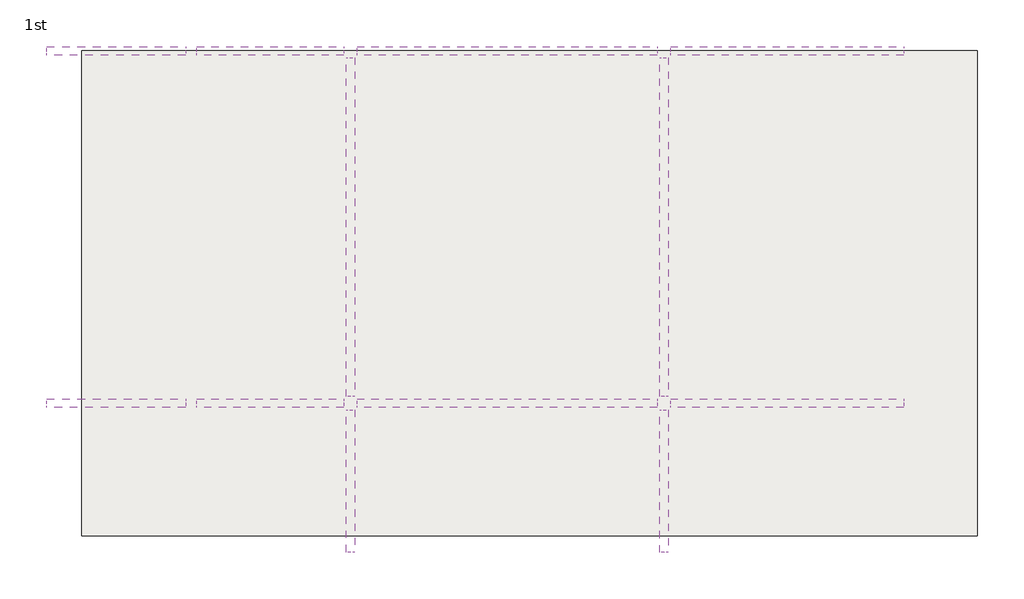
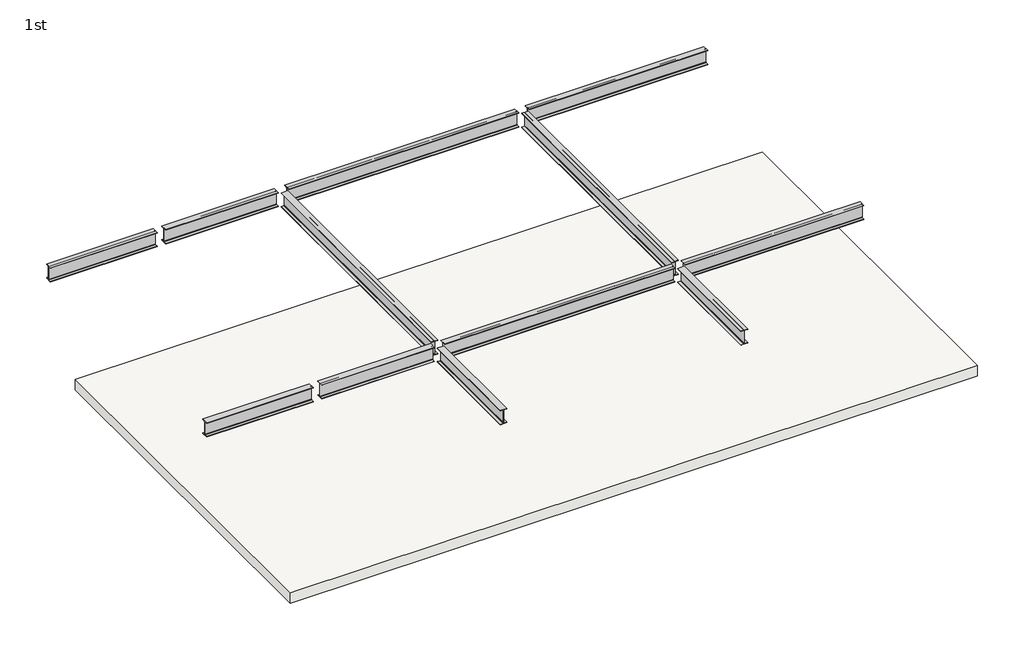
# One storey: 12 beams, 1 slab.
"""IFC4 building model written with IfcOpenShell, lengths in millimetres."""

import ifcopenshell
import ifcopenshell.guid

model = None  # the IFC model being written
_history = None  # IfcOwnerHistory: only IFC2X3 demands one
_inside = {}  # id of a spatial element -> (the spatial element, [elements in it])
_under = {}  # id of a project, library or spatial element -> (it, [spatial elements below it])
_declared = {}  # id of a project -> (the project, [libraries it declares])
_typed = {}  # id of a type object -> (the type object, [elements of that type])
_made_of = {}  # id of a material, layer set ... -> (it, [elements and type objects made of it])


def new_model(schema):
    """Start an empty IFC model of exactly this schema.

    Asked for "IFC4X3", IfcOpenShell would pick the latest addendum, in which some entities
    have other attributes; the version numbers below select the first issue.
    IFC2X3 requires an IfcOwnerHistory on every rooted entity: one is made here for all.
    """
    global model, _history
    if schema == "IFC4X3":
        model = ifcopenshell.file(schema_version=(4, 3, 0, 0))
    else:
        model = ifcopenshell.file(schema=schema)
    _inside.clear()
    _under.clear()
    _declared.clear()
    _typed.clear()
    _made_of.clear()
    _history = None
    if model.schema == "IFC2X3":
        org = make("IfcOrganization", Name="unknown")
        user = make(
            "IfcPersonAndOrganization",
            ThePerson=make("IfcPerson", FamilyName="unknown"),
            TheOrganization=org,
        )
        app = make(
            "IfcApplication",
            ApplicationDeveloper=org,
            Version="unknown",
            ApplicationFullName="unknown",
            ApplicationIdentifier="unknown",
        )
        _history = make(
            "IfcOwnerHistory",
            OwningUser=user,
            OwningApplication=app,
            ChangeAction="ADDED",
            CreationDate=0,
        )
    return model


def make(cls, **values):
    """One entity of the class cls with the attributes given. An attribute that is None is left unset."""
    return model.create_entity(
        cls, **{name: value for name, value in values.items() if value is not None}
    )


def rooted(cls, **values):
    """An entity with a GlobalId (a new one), such as an element, a storey or a relation."""
    return make(cls, GlobalId=ifcopenshell.guid.new(), OwnerHistory=_history, **values)


def si_unit(unit_type, name, prefix=None):
    """IfcSIUnit, for example si_unit("LENGTHUNIT", "METRE", prefix="MILLI")."""
    return make("IfcSIUnit", UnitType=unit_type, Prefix=prefix, Name=name)


def assignment(units):
    """IfcUnitAssignment: the units of a project."""
    return None if units is None else make("IfcUnitAssignment", Units=units)


def point(xyz):
    """IfcCartesianPoint."""
    return None if xyz is None else make("IfcCartesianPoint", Coordinates=xyz)


def direction(xyz):
    """IfcDirection."""
    return None if xyz is None else make("IfcDirection", DirectionRatios=xyz)


def frame(location, z_axis=None, x_axis=None):
    """IfcAxis2Placement3D, a coordinate frame: its origin and axes. An axis left out is left unset."""
    return make(
        "IfcAxis2Placement3D",
        Location=point(location),
        Axis=direction(z_axis),
        RefDirection=direction(x_axis),
    )


def frame_2d(location, x_axis=None):
    """IfcAxis2Placement2D, a coordinate frame in the plane: its origin and x axis."""
    return make(
        "IfcAxis2Placement2D", Location=point(location), RefDirection=direction(x_axis)
    )


def origin():
    """The frame at (0, 0, 0) with its axes left unset."""
    return frame((0.0, 0.0, 0.0))


def place(relative_to, where):
    """IfcLocalPlacement: puts the frame where relative to a parent placement (None: the world)."""
    return make(
        "IfcLocalPlacement", PlacementRelTo=relative_to, RelativePlacement=where
    )


def context(
    kind, dimensions, precision=None, world=None, true_north=None, identifier=None
):
    """IfcGeometricRepresentationContext, for example the 3D "Model" context."""
    return make(
        "IfcGeometricRepresentationContext",
        ContextIdentifier=identifier,
        ContextType=kind,
        CoordinateSpaceDimension=dimensions,
        Precision=precision,
        WorldCoordinateSystem=world,
        TrueNorth=true_north,
    )


def project(units=None, contexts=None):
    """IfcProject with its units and contexts."""
    return rooted(
        "IfcProject",
        Name="project",
        RepresentationContexts=contexts,
        UnitsInContext=assignment(units),
    )


def spatial(cls, under=None, at=None, **own):
    """A site, building, storey or space (cls), placed at a placement, below another one or the project."""
    s = rooted(cls, ObjectPlacement=at, **own)
    if under is not None:
        _under.setdefault(under.id(), (under, []))[1].append(s)
    return s


def polyline(points):
    """IfcPolyline through the points."""
    return make("IfcPolyline", Points=[point(p) for p in points])


def circle_curve(where, radius):
    """IfcCircle in the frame where."""
    return make("IfcCircle", Position=where, Radius=radius)


def trimmed(basis, trim1, trim2, sense, master):
    """IfcTrimmedCurve: the piece of a basis curve between two trims."""
    return make(
        "IfcTrimmedCurve",
        BasisCurve=basis,
        Trim1=trim1,
        Trim2=trim2,
        SenseAgreement=sense,
        MasterRepresentation=master,
    )


def segment(curve, same_sense, transition):
    """IfcCompositeCurveSegment."""
    return make(
        "IfcCompositeCurveSegment",
        Transition=transition,
        SameSense=same_sense,
        ParentCurve=curve,
    )


def composite_curve(segments, self_intersect=None):
    """IfcCompositeCurve: segments joined end to end."""
    return make("IfcCompositeCurve", Segments=segments, SelfIntersect=self_intersect)


def outline(outer, holes=None, kind="AREA"):
    """IfcArbitraryClosedProfileDef: a profile drawn as a closed curve; with holes, ...WithVoids."""
    if holes is None:
        return make("IfcArbitraryClosedProfileDef", ProfileType=kind, OuterCurve=outer)
    return make(
        "IfcArbitraryProfileDefWithVoids",
        ProfileType=kind,
        OuterCurve=outer,
        InnerCurves=holes,
    )


def extrude(swept, where, along, depth):
    """IfcExtrudedAreaSolid: the profile swept, set in the frame where, extruded along a direction by depth."""
    return make(
        "IfcExtrudedAreaSolid",
        SweptArea=swept,
        Position=where,
        ExtrudedDirection=direction(along),
        Depth=depth,
    )


def shape(context_of_items, identifier, shape_type, items):
    """IfcShapeRepresentation: the items that make up one representation, for example the "Body"."""
    return make(
        "IfcShapeRepresentation",
        ContextOfItems=context_of_items,
        RepresentationIdentifier=identifier,
        RepresentationType=shape_type,
        Items=items,
    )


def source(mapping_origin, context_of_items, identifier, shape_type, items):
    """IfcRepresentationMap: a shape defined once, which mapped items show again and again."""
    return make(
        "IfcRepresentationMap",
        MappingOrigin=mapping_origin,
        MappedRepresentation=shape(context_of_items, identifier, shape_type, items),
    )


def transform(
    local_origin,
    x_axis=None,
    y_axis=None,
    z_axis=None,
    scale=None,
    scale2=None,
    scale3=None,
    uniform=True,
):
    """IfcCartesianTransformationOperator3D, or its non-uniform kind. x_axis, y_axis, z_axis: its Axis1, 2, 3."""
    if uniform:
        return make(
            "IfcCartesianTransformationOperator3D",
            Axis1=direction(x_axis),
            Axis2=direction(y_axis),
            LocalOrigin=point(local_origin),
            Scale=scale,
            Axis3=direction(z_axis),
        )
    return make(
        "IfcCartesianTransformationOperator3DnonUniform",
        Axis1=direction(x_axis),
        Axis2=direction(y_axis),
        LocalOrigin=point(local_origin),
        Scale=scale,
        Axis3=direction(z_axis),
        Scale2=scale2,
        Scale3=scale3,
    )


def mapped(mapping_source, mapping_target):
    """IfcMappedItem: shows the shape of a source again, moved by a transform."""
    return make(
        "IfcMappedItem", MappingSource=mapping_source, MappingTarget=mapping_target
    )


def made_of(thing, what):
    """Note that an element or type object is made of a material, layer set ...; save() writes the relation."""
    if what is not None:
        _made_of.setdefault(what.id(), (what, []))[1].append(thing)
    return thing


def element(
    cls,
    number,
    at=None,
    inside=None,
    cuts=None,
    type_object=None,
    material=None,
    context=None,
    identifier="Body",
    shape_type=None,
    held_by="IfcProductDefinitionShape",
    body=None,
    shapes=None,
    **own,
):
    """One element of the class cls, such as IfcWall. Its Tag is "e" and its number.

    at: its placement. inside: the storey or other place that contains it. cuts: it is an
    opening in that element (IfcRelVoidsElement). A single representation is given by context,
    identifier, shape_type and body (its items); several are given by shapes. held_by: the class
    of the entity that holds the representations. save() writes the other relations.
    """
    e = rooted(cls, Tag="e%d" % number, ObjectPlacement=at, **own)
    if body is not None:
        shapes = [shape(context, identifier, shape_type, body)]
    if shapes is not None:
        e.Representation = make(held_by, Representations=shapes)
    if inside is not None:
        _inside.setdefault(inside.id(), (inside, []))[1].append(e)
    if cuts is not None:
        rooted(
            "IfcRelVoidsElement", RelatingBuildingElement=cuts, RelatedOpeningElement=e
        )
    if type_object is not None:
        _typed.setdefault(type_object.id(), (type_object, []))[1].append(e)
    return made_of(e, material)


def aggregate(whole, parts):
    """IfcRelAggregates: a whole, such as a stair, and the parts it consists of."""
    return rooted("IfcRelAggregates", RelatingObject=whole, RelatedObjects=parts)


def save(model, path):
    """Write the relations noted so far, then the file.

    IfcRelAggregates (storeys below a building ...), IfcRelContainedInSpatialStructure (elements
    in a storey), IfcRelDefinesByType, IfcRelAssociatesMaterial and IfcRelDeclares: one each for
    every whole, place, type object, material and project.
    """
    for whole, parts in _under.values():
        aggregate(whole, parts)
    for where, things in _inside.values():
        rooted(
            "IfcRelContainedInSpatialStructure",
            RelatedElements=things,
            RelatingStructure=where,
        )
    for kind, things in _typed.values():
        rooted("IfcRelDefinesByType", RelatedObjects=things, RelatingType=kind)
    for what, things in _made_of.values():
        rooted("IfcRelAssociatesMaterial", RelatedObjects=things, RelatingMaterial=what)
    for by, libraries in _declared.values():
        rooted("IfcRelDeclares", RelatingContext=by, RelatedDefinitions=libraries)
    model.write(path)


def ub_universal_beams_ub406x178x60_065d8e95(model_context):
    return source(origin(), model_context, "Body", "SweptSolid", [
        extrude(outline(composite_curve([segment(polyline([(88.95, -190.4), (88.95, -203.2), (-88.95, -203.2), (-88.95, -190.4), (-14.15, -190.4)]), True, "CONTINUOUS"), segment(trimmed(circle_curve(frame_2d((-14.15, -180.2)), 10.2), [point((-14.15, -190.4))], [point((-3.95, -180.2))], True, "CARTESIAN"), True, "CONTINUOUS"), segment(polyline([(-3.95, -180.2), (-3.95, 180.2)]), True, "CONTINUOUS"), segment(trimmed(circle_curve(frame_2d((-14.15, 180.2)), 10.2), [point((-3.95, 180.2))], [point((-14.15, 190.4))], True, "CARTESIAN"), True, "CONTINUOUS"), segment(polyline([(-14.15, 190.4), (-88.95, 190.4), (-88.95, 203.2), (88.95, 203.2), (88.95, 190.4), (14.15, 190.4)]), True, "CONTINUOUS"), segment(trimmed(circle_curve(frame_2d((14.15, 180.2)), 10.2), [point((14.15, 190.4))], [point((3.95, 180.2))], True, "CARTESIAN"), True, "CONTINUOUS"), segment(polyline([(3.95, 180.2), (3.95, -180.2)]), True, "CONTINUOUS"), segment(trimmed(circle_curve(frame_2d((14.15, -180.2)), 10.2), [point((3.95, -180.2))], [point((14.15, -190.4))], True, "CARTESIAN"), True, "CONTINUOUS"), segment(polyline([(14.15, -190.4), (88.95, -190.4)]), True, "CONTINUOUS")], self_intersect=False)), frame((-1509.6, 0.0, 0.0), z_axis=(1.0, 0.0, 0.0), x_axis=(0.0, 1.0, 0.0)), (0.0, 0.0, 1.0), 3044.3),
    ])


def ub_universal_beams_ub406x178x60_8dec86ff(model_context):
    return source(origin(), model_context, "Body", "SweptSolid", [
        extrude(outline(composite_curve([segment(polyline([(88.95, -190.4), (88.95, -203.2), (-88.95, -203.2), (-88.95, -190.4), (-14.15, -190.4)]), True, "CONTINUOUS"), segment(trimmed(circle_curve(frame_2d((-14.15, -180.2)), 10.2), [point((-14.15, -190.4))], [point((-3.95, -180.2))], True, "CARTESIAN"), True, "CONTINUOUS"), segment(polyline([(-3.95, -180.2), (-3.95, 180.2)]), True, "CONTINUOUS"), segment(trimmed(circle_curve(frame_2d((-14.15, 180.2)), 10.2), [point((-3.95, 180.2))], [point((-14.15, 190.4))], True, "CARTESIAN"), True, "CONTINUOUS"), segment(polyline([(-14.15, 190.4), (-88.95, 190.4), (-88.95, 203.2), (88.95, 203.2), (88.95, 190.4), (14.15, 190.4)]), True, "CONTINUOUS"), segment(trimmed(circle_curve(frame_2d((14.15, 180.2)), 10.2), [point((14.15, 190.4))], [point((3.95, 180.2))], True, "CARTESIAN"), True, "CONTINUOUS"), segment(polyline([(3.95, 180.2), (3.95, -180.2)]), True, "CONTINUOUS"), segment(trimmed(circle_curve(frame_2d((14.15, -180.2)), 10.2), [point((3.95, -180.2))], [point((14.15, -190.4))], True, "CARTESIAN"), True, "CONTINUOUS"), segment(polyline([(14.15, -190.4), (88.95, -190.4)]), True, "CONTINUOUS")], self_intersect=False)), frame((-1385.1, 0.0, 0.0), z_axis=(1.0, 0.0, 0.0), x_axis=(0.0, 1.0, 0.0)), (0.0, 0.0, 1.0), 2885.1),
    ])


model = new_model("IFC4")

# Units and contexts
model_context = context("Model", 3, world=origin())
ifc_project = project(units=[si_unit("LENGTHUNIT", "METRE", prefix="MILLI")], contexts=[model_context])

# Site, building, storey
site = spatial("IfcSite", under=ifc_project)
building = spatial("IfcBuilding", under=site)
storey = spatial("IfcBuildingStorey", under=building, Name="1st", Elevation=3700.0)

# Beams
placement = place(None, origin())
element("IfcBeam", 1, ObjectType="UB-Universal Beams : UB406x178x60", at=placement, inside=storey, context=model_context, shape_type="SweptSolid", body=[
    extrude(outline(composite_curve([segment(polyline([(6806.4, 13035.7505584), (6806.4, 12960.9505584)]), True, "CONTINUOUS"), segment(trimmed(circle_curve(frame_2d((6816.6, 12960.9505584)), 10.2), [point((6806.4, 12960.9505584))], [point((6816.6, 12950.7505584))], True, "CARTESIAN"), True, "CONTINUOUS"), segment(polyline([(6816.6, 12950.7505584), (7177.0, 12950.7505584)]), True, "CONTINUOUS"), segment(trimmed(circle_curve(frame_2d((7177.0, 12960.9505584)), 10.2), [point((7177.0, 12950.7505584))], [point((7187.2, 12960.9505584))], True, "CARTESIAN"), True, "CONTINUOUS"), segment(polyline([(7187.2, 12960.9505584), (7187.2, 13035.7505584), (7200.0, 13035.7505584), (7200.0, 12857.8505584), (7187.2, 12857.8505584), (7187.2, 12932.6505584)]), True, "CONTINUOUS"), segment(trimmed(circle_curve(frame_2d((7177.0, 12932.6505584)), 10.2), [point((7187.2, 12932.6505584))], [point((7177.0, 12942.8505584))], True, "CARTESIAN"), True, "CONTINUOUS"), segment(polyline([(7177.0, 12942.8505584), (6816.6, 12942.8505584)]), True, "CONTINUOUS"), segment(trimmed(circle_curve(frame_2d((6816.6, 12932.6505584)), 10.2), [point((6816.6, 12942.8505584))], [point((6806.4, 12932.6505584))], True, "CARTESIAN"), True, "CONTINUOUS"), segment(polyline([(6806.4, 12932.6505584), (6806.4, 12857.8505584), (6793.6, 12857.8505584), (6793.6, 13035.7505584), (6806.4, 13035.7505584)]), True, "CONTINUOUS")], self_intersect=False)), frame((0.0, 22818.3386199, 0.0), z_axis=(0.0, 1.0, 0.0), x_axis=(0.0, 0.0, 1.0)), (0.0, 0.0, 1.0), 7035.6),
])
element("IfcBeam", 2, ObjectType="UB-Universal Beams : UB406x178x60", at=placement, inside=storey, context=model_context, shape_type="SweptSolid", body=[
    extrude(outline(composite_curve([segment(polyline([(6806.4, 19538.1505584), (6806.4, 19463.3505584)]), True, "CONTINUOUS"), segment(trimmed(circle_curve(frame_2d((6816.6, 19463.3505584)), 10.2), [point((6806.4, 19463.3505584))], [point((6816.6, 19453.1505584))], True, "CARTESIAN"), True, "CONTINUOUS"), segment(polyline([(6816.6, 19453.1505584), (7177.0, 19453.1505584)]), True, "CONTINUOUS"), segment(trimmed(circle_curve(frame_2d((7177.0, 19463.3505584)), 10.2), [point((7177.0, 19453.1505584))], [point((7187.2, 19463.3505584))], True, "CARTESIAN"), True, "CONTINUOUS"), segment(polyline([(7187.2, 19463.3505584), (7187.2, 19538.1505584), (7200.0, 19538.1505584), (7200.0, 19360.2505584), (7187.2, 19360.2505584), (7187.2, 19435.0505584)]), True, "CONTINUOUS"), segment(trimmed(circle_curve(frame_2d((7177.0, 19435.0505584)), 10.2), [point((7187.2, 19435.0505584))], [point((7177.0, 19445.2505584))], True, "CARTESIAN"), True, "CONTINUOUS"), segment(polyline([(7177.0, 19445.2505584), (6816.6, 19445.2505584)]), True, "CONTINUOUS"), segment(trimmed(circle_curve(frame_2d((6816.6, 19435.0505584)), 10.2), [point((6816.6, 19445.2505584))], [point((6806.4, 19435.0505584))], True, "CARTESIAN"), True, "CONTINUOUS"), segment(polyline([(6806.4, 19435.0505584), (6806.4, 19360.2505584), (6793.6, 19360.2505584), (6793.6, 19538.1505584), (6806.4, 19538.1505584)]), True, "CONTINUOUS")], self_intersect=False)), frame((0.0, 22818.3386199, 0.0), z_axis=(0.0, 1.0, 0.0), x_axis=(0.0, 0.0, 1.0)), (0.0, 0.0, 1.0), 7035.6),
])
element("IfcBeam", 3, ObjectType="UB-Universal Beams : UB406x178x60", at=placement, inside=storey, context=model_context, shape_type="SweptSolid", body=[
    extrude(outline(composite_curve([segment(polyline([(29904.7886199, 6806.4), (29979.5886199, 6806.4)]), True, "CONTINUOUS"), segment(trimmed(circle_curve(frame_2d((29979.5886199, 6816.6)), 10.2), [point((29979.5886199, 6806.4))], [point((29989.7886199, 6816.6))], True, "CARTESIAN"), True, "CONTINUOUS"), segment(polyline([(29989.7886199, 6816.6), (29989.7886199, 7177.0)]), True, "CONTINUOUS"), segment(trimmed(circle_curve(frame_2d((29979.5886199, 7177.0)), 10.2), [point((29989.7886199, 7177.0))], [point((29979.5886199, 7187.2))], True, "CARTESIAN"), True, "CONTINUOUS"), segment(polyline([(29979.5886199, 7187.2), (29904.7886199, 7187.2), (29904.7886199, 7200.0), (30082.6886199, 7200.0), (30082.6886199, 7187.2), (30007.8886199, 7187.2)]), True, "CONTINUOUS"), segment(trimmed(circle_curve(frame_2d((30007.8886199, 7177.0)), 10.2), [point((30007.8886199, 7187.2))], [point((29997.6886199, 7177.0))], True, "CARTESIAN"), True, "CONTINUOUS"), segment(polyline([(29997.6886199, 7177.0), (29997.6886199, 6816.6)]), True, "CONTINUOUS"), segment(trimmed(circle_curve(frame_2d((30007.8886199, 6816.6)), 10.2), [point((29997.6886199, 6816.6))], [point((30007.8886199, 6806.4))], True, "CARTESIAN"), True, "CONTINUOUS"), segment(polyline([(30007.8886199, 6806.4), (30082.6886199, 6806.4), (30082.6886199, 6793.6), (29904.7886199, 6793.6), (29904.7886199, 6806.4)]), True, "CONTINUOUS")], self_intersect=False)), frame((19589.250234, 0.0, 0.0), z_axis=(1.0, 0.0, 0.0), x_axis=(0.0, 1.0, 0.0)), (0.0, 0.0, 1.0), 4829.6),
])
element("IfcBeam", 4, ObjectType="UB-Universal Beams : UB406x178x60", at=placement, inside=storey, context=model_context, shape_type="SweptSolid", body=[
    extrude(outline(composite_curve([segment(polyline([(29904.7886199, 6806.4), (29979.5886199, 6806.4)]), True, "CONTINUOUS"), segment(trimmed(circle_curve(frame_2d((29979.5886199, 6816.6)), 10.2), [point((29979.5886199, 6806.4))], [point((29989.7886199, 6816.6))], True, "CARTESIAN"), True, "CONTINUOUS"), segment(polyline([(29989.7886199, 6816.6), (29989.7886199, 7177.0)]), True, "CONTINUOUS"), segment(trimmed(circle_curve(frame_2d((29979.5886199, 7177.0)), 10.2), [point((29989.7886199, 7177.0))], [point((29979.5886199, 7187.2))], True, "CARTESIAN"), True, "CONTINUOUS"), segment(polyline([(29979.5886199, 7187.2), (29904.7886199, 7187.2), (29904.7886199, 7200.0), (30082.6886199, 7200.0), (30082.6886199, 7187.2), (30007.8886199, 7187.2)]), True, "CONTINUOUS"), segment(trimmed(circle_curve(frame_2d((30007.8886199, 7177.0)), 10.2), [point((30007.8886199, 7187.2))], [point((29997.6886199, 7177.0))], True, "CARTESIAN"), True, "CONTINUOUS"), segment(polyline([(29997.6886199, 7177.0), (29997.6886199, 6816.6)]), True, "CONTINUOUS"), segment(trimmed(circle_curve(frame_2d((30007.8886199, 6816.6)), 10.2), [point((29997.6886199, 6816.6))], [point((30007.8886199, 6806.4))], True, "CARTESIAN"), True, "CONTINUOUS"), segment(polyline([(30007.8886199, 6806.4), (30082.6886199, 6806.4), (30082.6886199, 6793.6), (29904.7886199, 6793.6), (29904.7886199, 6806.4)]), True, "CONTINUOUS")], self_intersect=False)), frame((13086.8005584, 0.0, 0.0), z_axis=(1.0, 0.0, 0.0), x_axis=(0.0, 1.0, 0.0)), (0.0, 0.0, 1.0), 6222.4),
])
element("IfcBeam", 5, ObjectType="UB-Universal Beams : UB406x178x60", at=placement, inside=storey, context=model_context, shape_type="SweptSolid", body=[
    extrude(outline(composite_curve([segment(polyline([(22589.5886199, 6806.4), (22664.3886199, 6806.4)]), True, "CONTINUOUS"), segment(trimmed(circle_curve(frame_2d((22664.3886199, 6816.6)), 10.2), [point((22664.3886199, 6806.4))], [point((22674.5886199, 6816.6))], True, "CARTESIAN"), True, "CONTINUOUS"), segment(polyline([(22674.5886199, 6816.6), (22674.5886199, 7177.0)]), True, "CONTINUOUS"), segment(trimmed(circle_curve(frame_2d((22664.3886199, 7177.0)), 10.2), [point((22674.5886199, 7177.0))], [point((22664.3886199, 7187.2))], True, "CARTESIAN"), True, "CONTINUOUS"), segment(polyline([(22664.3886199, 7187.2), (22589.5886199, 7187.2), (22589.5886199, 7200.0), (22767.4886199, 7200.0), (22767.4886199, 7187.2), (22692.6886199, 7187.2)]), True, "CONTINUOUS"), segment(trimmed(circle_curve(frame_2d((22692.6886199, 7177.0)), 10.2), [point((22692.6886199, 7187.2))], [point((22682.4886199, 7177.0))], True, "CARTESIAN"), True, "CONTINUOUS"), segment(polyline([(22682.4886199, 7177.0), (22682.4886199, 6816.6)]), True, "CONTINUOUS"), segment(trimmed(circle_curve(frame_2d((22692.6886199, 6816.6)), 10.2), [point((22682.4886199, 6816.6))], [point((22692.6886199, 6806.4))], True, "CARTESIAN"), True, "CONTINUOUS"), segment(polyline([(22692.6886199, 6806.4), (22767.4886199, 6806.4), (22767.4886199, 6793.6), (22589.5886199, 6793.6), (22589.5886199, 6806.4)]), True, "CONTINUOUS")], self_intersect=False)), frame((19589.250234, 0.0, 0.0), z_axis=(1.0, 0.0, 0.0), x_axis=(0.0, 1.0, 0.0)), (0.0, 0.0, 1.0), 4829.6),
])
element("IfcBeam", 6, ObjectType="UB-Universal Beams : UB406x178x60", at=placement, inside=storey, context=model_context, shape_type="SweptSolid", body=[
    extrude(outline(composite_curve([segment(polyline([(22589.5886199, 6806.4), (22664.3886199, 6806.4)]), True, "CONTINUOUS"), segment(trimmed(circle_curve(frame_2d((22664.3886199, 6816.6)), 10.2), [point((22664.3886199, 6806.4))], [point((22674.5886199, 6816.6))], True, "CARTESIAN"), True, "CONTINUOUS"), segment(polyline([(22674.5886199, 6816.6), (22674.5886199, 7177.0)]), True, "CONTINUOUS"), segment(trimmed(circle_curve(frame_2d((22664.3886199, 7177.0)), 10.2), [point((22674.5886199, 7177.0))], [point((22664.3886199, 7187.2))], True, "CARTESIAN"), True, "CONTINUOUS"), segment(polyline([(22664.3886199, 7187.2), (22589.5886199, 7187.2), (22589.5886199, 7200.0), (22767.4886199, 7200.0), (22767.4886199, 7187.2), (22692.6886199, 7187.2)]), True, "CONTINUOUS"), segment(trimmed(circle_curve(frame_2d((22692.6886199, 7177.0)), 10.2), [point((22692.6886199, 7187.2))], [point((22682.4886199, 7177.0))], True, "CARTESIAN"), True, "CONTINUOUS"), segment(polyline([(22682.4886199, 7177.0), (22682.4886199, 6816.6)]), True, "CONTINUOUS"), segment(trimmed(circle_curve(frame_2d((22692.6886199, 6816.6)), 10.2), [point((22682.4886199, 6816.6))], [point((22692.6886199, 6806.4))], True, "CARTESIAN"), True, "CONTINUOUS"), segment(polyline([(22692.6886199, 6806.4), (22767.4886199, 6806.4), (22767.4886199, 6793.6), (22589.5886199, 6793.6), (22589.5886199, 6806.4)]), True, "CONTINUOUS")], self_intersect=False)), frame((13086.8005584, 0.0, 0.0), z_axis=(1.0, 0.0, 0.0), x_axis=(0.0, 1.0, 0.0)), (0.0, 0.0, 1.0), 6222.4),
])
element("IfcBeam", 7, ObjectType="UB-Universal Beams : UB406x178x60", at=placement, inside=storey, context=model_context, shape_type="SweptSolid", body=[
    extrude(outline(composite_curve([segment(polyline([(6806.4, 13035.7505584), (6806.4, 12960.9505584)]), True, "CONTINUOUS"), segment(trimmed(circle_curve(frame_2d((6816.6, 12960.9505584)), 10.2), [point((6806.4, 12960.9505584))], [point((6816.6, 12950.7505584))], True, "CARTESIAN"), True, "CONTINUOUS"), segment(polyline([(6816.6, 12950.7505584), (7177.0, 12950.7505584)]), True, "CONTINUOUS"), segment(trimmed(circle_curve(frame_2d((7177.0, 12960.9505584)), 10.2), [point((7177.0, 12950.7505584))], [point((7187.2, 12960.9505584))], True, "CARTESIAN"), True, "CONTINUOUS"), segment(polyline([(7187.2, 12960.9505584), (7187.2, 13035.7505584), (7200.0, 13035.7505584), (7200.0, 12857.8505584), (7187.2, 12857.8505584), (7187.2, 12932.6505584)]), True, "CONTINUOUS"), segment(trimmed(circle_curve(frame_2d((7177.0, 12932.6505584)), 10.2), [point((7187.2, 12932.6505584))], [point((7177.0, 12942.8505584))], True, "CARTESIAN"), True, "CONTINUOUS"), segment(polyline([(7177.0, 12942.8505584), (6816.6, 12942.8505584)]), True, "CONTINUOUS"), segment(trimmed(circle_curve(frame_2d((6816.6, 12932.6505584)), 10.2), [point((6816.6, 12942.8505584))], [point((6806.4, 12932.6505584))], True, "CARTESIAN"), True, "CONTINUOUS"), segment(polyline([(6806.4, 12932.6505584), (6806.4, 12857.8505584), (6793.6, 12857.8505584), (6793.6, 13035.7505584), (6806.4, 13035.7505584)]), True, "CONTINUOUS")], self_intersect=False)), frame((0.0, 19589.34109, 0.0), z_axis=(0.0, 1.0, 0.0), x_axis=(0.0, 0.0, 1.0)), (0.0, 0.0, 1.0), 2949.39506),
])
element("IfcBeam", 8, ObjectType="UB-Universal Beams : UB406x178x60", at=placement, inside=storey, context=model_context, shape_type="SweptSolid", body=[
    extrude(outline(composite_curve([segment(polyline([(6806.4, 19538.1505584), (6806.4, 19463.3505584)]), True, "CONTINUOUS"), segment(trimmed(circle_curve(frame_2d((6816.6, 19463.3505584)), 10.2), [point((6806.4, 19463.3505584))], [point((6816.6, 19453.1505584))], True, "CARTESIAN"), True, "CONTINUOUS"), segment(polyline([(6816.6, 19453.1505584), (7177.0, 19453.1505584)]), True, "CONTINUOUS"), segment(trimmed(circle_curve(frame_2d((7177.0, 19463.3505584)), 10.2), [point((7177.0, 19453.1505584))], [point((7187.2, 19463.3505584))], True, "CARTESIAN"), True, "CONTINUOUS"), segment(polyline([(7187.2, 19463.3505584), (7187.2, 19538.1505584), (7200.0, 19538.1505584), (7200.0, 19360.2505584), (7187.2, 19360.2505584), (7187.2, 19435.0505584)]), True, "CONTINUOUS"), segment(trimmed(circle_curve(frame_2d((7177.0, 19435.0505584)), 10.2), [point((7187.2, 19435.0505584))], [point((7177.0, 19445.2505584))], True, "CARTESIAN"), True, "CONTINUOUS"), segment(polyline([(7177.0, 19445.2505584), (6816.6, 19445.2505584)]), True, "CONTINUOUS"), segment(trimmed(circle_curve(frame_2d((6816.6, 19435.0505584)), 10.2), [point((6816.6, 19445.2505584))], [point((6806.4, 19435.0505584))], True, "CARTESIAN"), True, "CONTINUOUS"), segment(polyline([(6806.4, 19435.0505584), (6806.4, 19360.2505584), (6793.6, 19360.2505584), (6793.6, 19538.1505584), (6806.4, 19538.1505584)]), True, "CONTINUOUS")], self_intersect=False)), frame((0.0, 19583.04356, 0.0), z_axis=(0.0, 1.0, 0.0), x_axis=(0.0, 0.0, 1.0)), (0.0, 0.0, 1.0), 2955.69506),
])
ub_universal_beams_ub406x178x60_shape = ub_universal_beams_ub406x178x60_065d8e95(model_context)
element("IfcBeam", 9, ObjectType="UB-Universal Beams : UB406x178x60", at=placement, inside=storey, context=model_context, shape_type="MappedRepresentation", body=[
    mapped(ub_universal_beams_ub406x178x60_shape, transform((11297.2005584, 29993.7386199, 6996.8), x_axis=(-1.0, 0.0, 0.0), y_axis=(0.0, -1.0, 0.0), z_axis=(0.0, 0.0, 1.0))),
])
element("IfcBeam", 10, ObjectType="UB-Universal Beams : UB406x178x60", at=placement, inside=storey, context=model_context, shape_type="MappedRepresentation", body=[
    mapped(ub_universal_beams_ub406x178x60_shape, transform((11297.2005584, 22678.5386199, 6996.8), x_axis=(-1.0, 0.0, 0.0), y_axis=(0.0, -1.0, 0.0), z_axis=(0.0, 0.0, 1.0))),
])
ub_universal_beams_ub406x178x60_2_shape = ub_universal_beams_ub406x178x60_8dec86ff(model_context)
element("IfcBeam", 11, ObjectType="UB-Universal Beams : UB406x178x60", at=placement, inside=storey, context=model_context, shape_type="MappedRepresentation", body=[
    mapped(ub_universal_beams_ub406x178x60_2_shape, transform((8147.6005584, 29993.7386199, 6996.8), x_axis=(-1.0, 0.0, 0.0), y_axis=(0.0, -1.0, 0.0), z_axis=(0.0, 0.0, 1.0))),
])
element("IfcBeam", 12, ObjectType="UB-Universal Beams : UB406x178x60", at=placement, inside=storey, context=model_context, shape_type="MappedRepresentation", body=[
    mapped(ub_universal_beams_ub406x178x60_2_shape, transform((8147.6005584, 22678.5386199, 6996.8), x_axis=(-1.0, 0.0, 0.0), y_axis=(0.0, -1.0, 0.0), z_axis=(0.0, 0.0, 1.0))),
])

# Slab
element("IfcSlab", 13, ObjectType="Generic 300mm", at=placement, inside=storey, context=model_context, shape_type="SweptSolid", body=[
    extrude(outline(polyline([(25951.6005584, 29993.7386199), (25951.6005584, 19927.3386199), (7377.6005584, 19927.3386199), (7377.6005584, 29993.7386199), (25951.6005584, 29993.7386199)])), frame((0.0, 0.0, 3400.0), z_axis=(0.0, 0.0, 1.0), x_axis=(1.0, 0.0, 0.0)), (0.0, 0.0, 1.0), 300.0),
])

save(model, "model.ifc")
